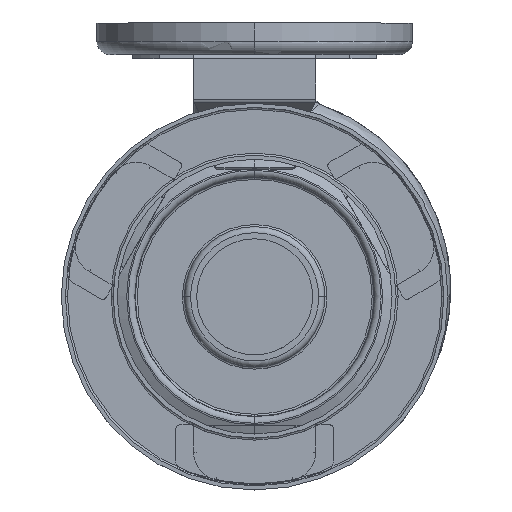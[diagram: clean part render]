
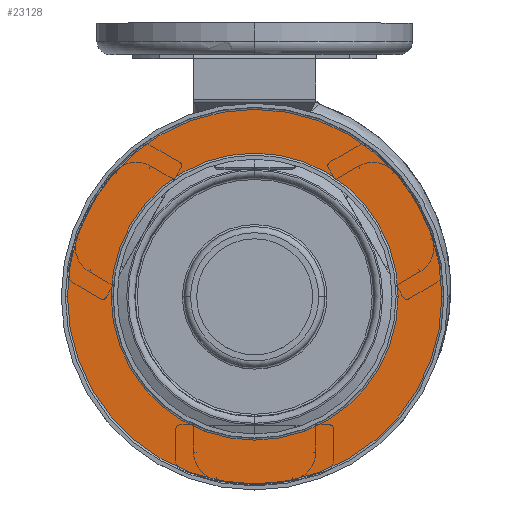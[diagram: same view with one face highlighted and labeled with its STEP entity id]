
A CAD part, top view. The second image highlights one B-rep face of the part: STEP entity #23128.
In plain terms, the highlighted planar face has unit normal (0, 0, 1) as drawn and (-1, 0, 0) by its records, which use the part's own axes.
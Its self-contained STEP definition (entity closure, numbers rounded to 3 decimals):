
#22744=CARTESIAN_POINT('',(6.,0.,0.));
#22745=DIRECTION('',(1.,0.,0.));
#22746=DIRECTION('',(0.,1.,0.));
#22747=AXIS2_PLACEMENT_3D('',#22744,#22745,#22746);
#22752=CARTESIAN_POINT('',(6.,0.,0.));
#22753=DIRECTION('',(1.,0.,0.));
#22754=DIRECTION('',(0.,-1.,0.));
#22755=AXIS2_PLACEMENT_3D('',#22752,#22753,#22754);
#22760=CARTESIAN_POINT('',(6.,0.,0.));
#22761=DIRECTION('',(1.,0.,0.));
#22762=DIRECTION('',(0.,1.,0.));
#22763=AXIS2_PLACEMENT_3D('',#22760,#22761,#22762);
#22768=CARTESIAN_POINT('',(6.,0.,0.));
#22769=DIRECTION('',(1.,0.,0.));
#22770=DIRECTION('',(0.,-1.,0.));
#22771=AXIS2_PLACEMENT_3D('',#22768,#22769,#22770);
#22930=CARTESIAN_POINT('',(6.,92.,0.));
#22931=CARTESIAN_POINT('',(6.,-92.,0.));
#22932=VERTEX_POINT('',#22930);
#22933=VERTEX_POINT('',#22931);
#22942=CARTESIAN_POINT('',(6.,70.5,0.));
#22943=CARTESIAN_POINT('',(6.,-70.5,0.));
#22944=VERTEX_POINT('',#22942);
#22945=VERTEX_POINT('',#22943);
#23112=CARTESIAN_POINT('',(6.,0.,0.));
#23113=DIRECTION('',(1.,0.,0.));
#23114=DIRECTION('',(0.,-1.,0.));
#23115=AXIS2_PLACEMENT_3D('',#23112,#23113,#23114);
#23116=PLANE('',#23115);
#23117=ORIENTED_EDGE('',*,*,#23102,.T.);
#23119=ORIENTED_EDGE('',*,*,#23118,.T.);
#23120=EDGE_LOOP('',(#23117,#23119));
#23121=FACE_OUTER_BOUND('',#23120,.F.);
#23123=ORIENTED_EDGE('',*,*,#23122,.F.);
#23125=ORIENTED_EDGE('',*,*,#23124,.F.);
#23126=EDGE_LOOP('',(#23123,#23125));
#23127=FACE_BOUND('',#23126,.F.);
#22748=CIRCLE('',#22747,92.);
#22756=CIRCLE('',#22755,92.);
#22764=CIRCLE('',#22763,70.5);
#22772=CIRCLE('',#22771,70.5);
#23102=EDGE_CURVE('',#22932,#22933,#22748,.T.);
#23118=EDGE_CURVE('',#22933,#22932,#22756,.T.);
#23122=EDGE_CURVE('',#22944,#22945,#22764,.T.);
#23124=EDGE_CURVE('',#22945,#22944,#22772,.T.);
#23128=ADVANCED_FACE('',(#23121,#23127),#23116,.F.);
